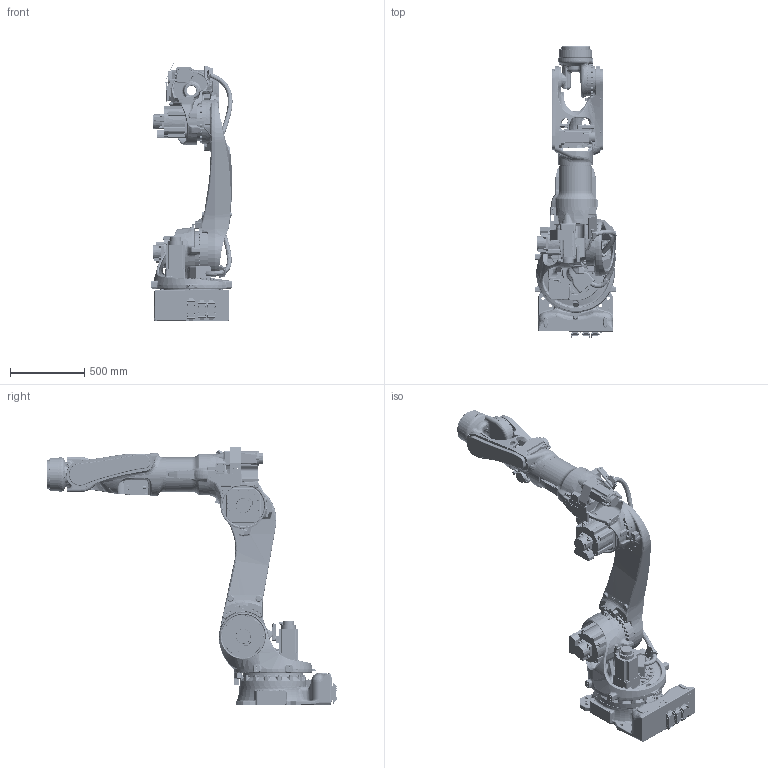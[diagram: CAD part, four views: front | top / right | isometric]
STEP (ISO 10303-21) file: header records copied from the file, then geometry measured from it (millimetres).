
FILE_DESCRIPTION(('CATIA V5 STEP Exchange'),'2;1');
FILE_NAME('D:\モデリング\☆☆☆STEP\BX\BX100\BX100N\RARAS_BX100N-B001_200715\軽量化\Part\BX100N-B001.stp','2020-07-22T02:02:23+00:00',('none'),('none'),'CATIA Version 5-6 Release 2016 SP6 HF14','CATIA V5 STEP AP203','none');
FILE_SCHEMA(('CONFIG_CONTROL_DESIGN'));
Products named in the file (1): BX100N-B001
Assembly tree (8 placements, depth 2):
  BX100N-B001
    #57
    #72891
    #191129
    #241406
    #314091
    #422835
    #466426
    #469828
Bounding box: 545.95 x 1958.76 x 1742.57 mm (x, y, z)
Volume: 172189273.1 mm3; surface area: 9020668.6 mm2
Topology: 26 solids, 28 shells, 9928 faces, 25099 edges, 15363 vertices
Faces by surface type: cylinder 3409, plane 3022, bspline 1966, cone 568, torus 558, sphere 185, extrusion 150, revolution 70
Entity records: 471656 total; most frequent: CARTESIAN_POINT 265275, ORIENTED_EDGE 49108, DIRECTION 29313, EDGE_CURVE 24554, VERTEX_POINT 15357, AXIS2_PLACEMENT_3D 13896, EDGE_LOOP 10845, ADVANCED_FACE 9928
